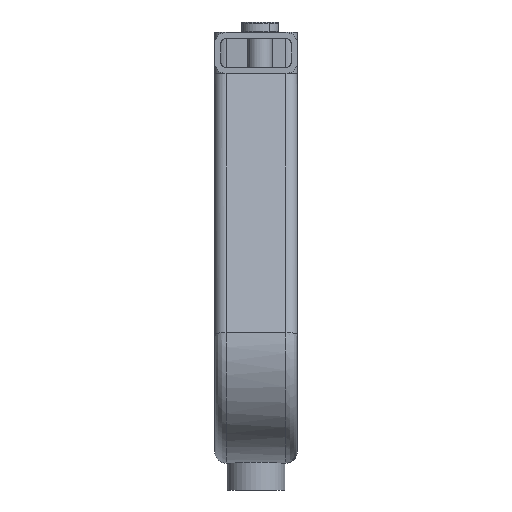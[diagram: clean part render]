
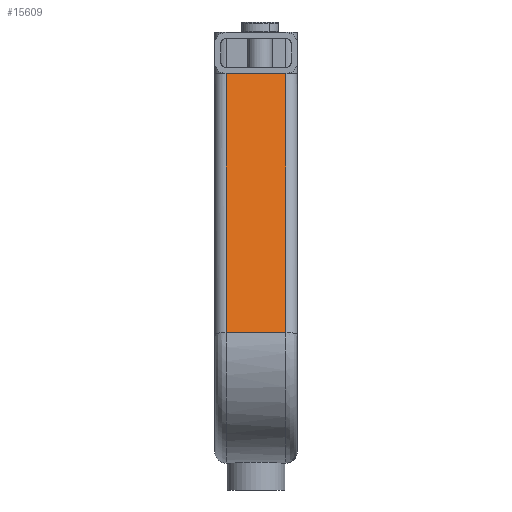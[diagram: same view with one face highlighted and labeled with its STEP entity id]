
A CAD part, left-side view. The second image highlights one B-rep face of the part: STEP entity #15609.
In plain terms, the highlighted planar face has unit normal (-0.982, 0, 0.191).
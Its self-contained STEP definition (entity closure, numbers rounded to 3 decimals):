
#10569=CARTESIAN_POINT('Vertex',(787.369,-549.5,372.395)) ;
#10572=CARTESIAN_POINT('Line Origine',(787.369,-564.,372.395)) ;
#10576=CARTESIAN_POINT('Vertex',(787.369,-578.5,372.395)) ;
#15571=CARTESIAN_POINT('Vertex',(763.025,-549.5,247.157)) ;
#15574=CARTESIAN_POINT('Line Origine',(773.169,-549.5,299.341)) ;
#15586=CARTESIAN_POINT('Axis2P3D Location',(762.97,-544.,246.873)) ;
#15591=CARTESIAN_POINT('Line Origine',(763.025,-564.,247.157)) ;
#15595=CARTESIAN_POINT('Vertex',(763.025,-578.5,247.157)) ;
#15598=CARTESIAN_POINT('Line Origine',(775.197,-578.5,309.776)) ;
#10573=DIRECTION('Vector Direction',(0.,-1.,0.)) ;
#15575=DIRECTION('Vector Direction',(0.191,0.,0.982)) ;
#15587=DIRECTION('Axis2P3D Direction',(-0.982,0.,0.191)) ;
#15588=DIRECTION('Axis2P3D XDirection',(0.,-1.,0.)) ;
#15592=DIRECTION('Vector Direction',(0.,-1.,0.)) ;
#15599=DIRECTION('Vector Direction',(0.191,0.,0.982)) ;
#15589=AXIS2_PLACEMENT_3D('Plane Axis2P3D',#15586,#15587,#15588) ;
#15604=ORIENTED_EDGE('',*,*,#15578,.F.) ;
#15605=ORIENTED_EDGE('',*,*,#15597,.T.) ;
#15606=ORIENTED_EDGE('',*,*,#15602,.T.) ;
#15607=ORIENTED_EDGE('',*,*,#10578,.F.) ;
#10574=VECTOR('Line Direction',#10573,1.) ;
#15576=VECTOR('Line Direction',#15575,1.) ;
#15593=VECTOR('Line Direction',#15592,1.) ;
#15600=VECTOR('Line Direction',#15599,1.) ;
#15609=ADVANCED_FACE('\X2\51E04F554F53\X0\.8',(#15608),#15590,.T.) ;
#10578=EDGE_CURVE('',#10570,#10577,#10575,.T.) ;
#15578=EDGE_CURVE('',#15572,#10570,#15577,.T.) ;
#15597=EDGE_CURVE('',#15572,#15596,#15594,.T.) ;
#15602=EDGE_CURVE('',#15596,#10577,#15601,.T.) ;
#15603=EDGE_LOOP('',(#15604,#15605,#15606,#15607)) ;
#15608=FACE_OUTER_BOUND('',#15603,.T.) ;
#10575=LINE('Line',#10572,#10574) ;
#15577=LINE('Line',#15574,#15576) ;
#15594=LINE('Line',#15591,#15593) ;
#15601=LINE('Line',#15598,#15600) ;
#15590=PLANE('Plane',#15589) ;
#10570=VERTEX_POINT('',#10569) ;
#10577=VERTEX_POINT('',#10576) ;
#15572=VERTEX_POINT('',#15571) ;
#15596=VERTEX_POINT('',#15595) ;
